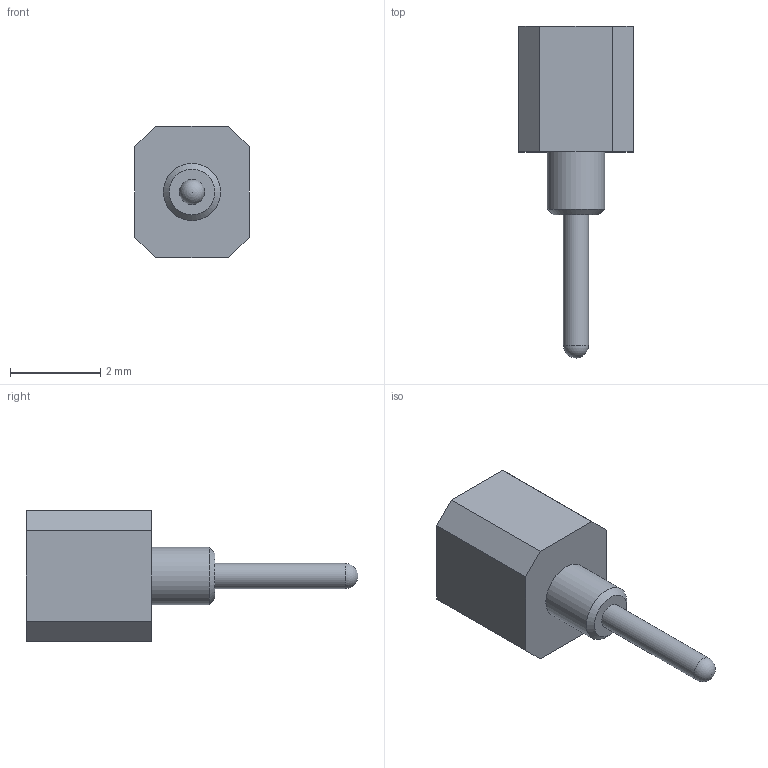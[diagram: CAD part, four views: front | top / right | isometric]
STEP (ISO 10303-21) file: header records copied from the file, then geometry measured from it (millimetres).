
FILE_DESCRIPTION(/* description */ ('Alibre Inc.'),/* implementation_level */ '2;1');
FILE_NAME(/* name */ 'export0',/* time_stamp */ '2010-12-16T11:02:01-08:00',/* author */ (''),/* organization */ (''),/* preprocessor_version */ 'ST-DEVELOPER v10',/* originating_system */ 'Alibre',/* authorisation */ '');
FILE_SCHEMA (('AUTOMOTIVE_DESIGN'));
Length unit declared in the file: centimetre
Bounding box: 2.54 x 7.37 x 2.92 mm (x, y, z)
Volume: 19.2 mm3; surface area: 88.3 mm2
Topology: 2 solids, 2 shells, 24 faces, 50 edges, 33 vertices
Faces by surface type: plane 15, cylinder 6, cone 2, sphere 1
Full cylindrical faces by diameter (mm): 0.559 x1, 0.94 x1, 1.27 x2, 1.397 x2
Entity records: 626 total; most frequent: CARTESIAN_POINT 96, DIRECTION 93, ORIENTED_EDGE 76, AXIS2_PLACEMENT_3D 42, EDGE_CURVE 38, EDGE_LOOP 38, FACE_BOUND 38, VERTEX_POINT 30
